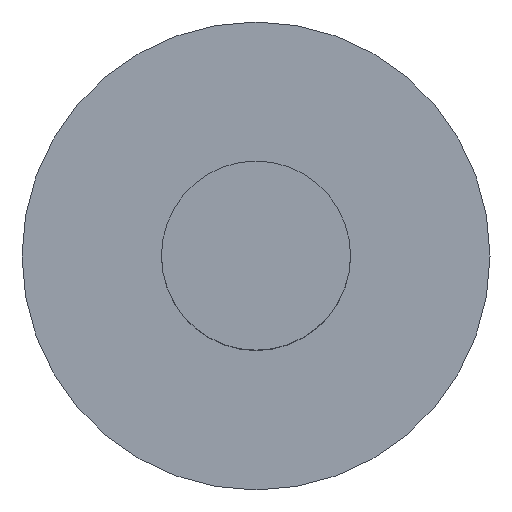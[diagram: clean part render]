
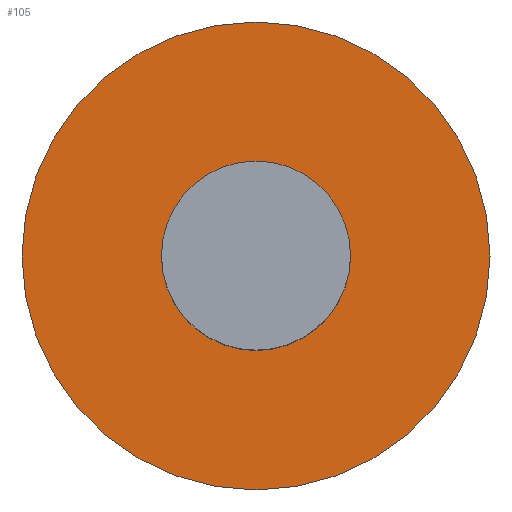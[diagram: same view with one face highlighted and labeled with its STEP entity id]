
A CAD part, top view. The second image highlights one B-rep face of the part: STEP entity #105.
In plain terms, the highlighted planar face has unit normal (0, 0, 1).
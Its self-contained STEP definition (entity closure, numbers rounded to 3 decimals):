
#21 = EDGE_CURVE('',#22,#22,#24,.T.);
#22 = VERTEX_POINT('',#23);
#23 = CARTESIAN_POINT('',(19.8,0.,110.));
#24 = SURFACE_CURVE('',#25,(#30,#42),.PCURVE_S1.);
#25 = CIRCLE('',#26,19.8);
#26 = AXIS2_PLACEMENT_3D('',#27,#28,#29);
#27 = CARTESIAN_POINT('',(0.,0.,110.));
#28 = DIRECTION('',(0.,0.,1.));
#29 = DIRECTION('',(1.,0.,-0.));
#30 = PCURVE('',#31,#36);
#31 = CONICAL_SURFACE('',#32,11.8,0.073);
#32 = AXIS2_PLACEMENT_3D('',#33,#34,#35);
#33 = CARTESIAN_POINT('',(0.,0.,0.));
#34 = DIRECTION('',(0.,0.,1.));
#35 = DIRECTION('',(1.,0.,-0.));
#36 = DEFINITIONAL_REPRESENTATION('',(#37),#41);
#37 = LINE('',#38,#39);
#38 = CARTESIAN_POINT('',(0.,110.));
#39 = VECTOR('',#40,1.);
#40 = DIRECTION('',(1.,0.));
#41 = ( GEOMETRIC_REPRESENTATION_CONTEXT(2) 
PARAMETRIC_REPRESENTATION_CONTEXT() REPRESENTATION_CONTEXT('2D SPACE',''
  ) );
#42 = PCURVE('',#43,#48);
#43 = PLANE('',#44);
#44 = AXIS2_PLACEMENT_3D('',#45,#46,#47);
#45 = CARTESIAN_POINT('',(0.,0.,110.));
#46 = DIRECTION('',(0.,0.,1.));
#47 = DIRECTION('',(1.,0.,-0.));
#48 = DEFINITIONAL_REPRESENTATION('',(#49),#53);
#49 = CIRCLE('',#50,19.8);
#50 = AXIS2_PLACEMENT_2D('',#51,#52);
#51 = CARTESIAN_POINT('',(0.,0.));
#52 = DIRECTION('',(1.,0.));
#53 = ( GEOMETRIC_REPRESENTATION_CONTEXT(2) 
PARAMETRIC_REPRESENTATION_CONTEXT() REPRESENTATION_CONTEXT('2D SPACE',''
  ) );
#105 = ADVANCED_FACE('',(#106,#109),#43,.T.);
#106 = FACE_BOUND('',#107,.T.);
#107 = EDGE_LOOP('',(#108));
#108 = ORIENTED_EDGE('',*,*,#21,.T.);
#109 = FACE_BOUND('',#110,.T.);
#110 = EDGE_LOOP('',(#111));
#111 = ORIENTED_EDGE('',*,*,#112,.F.);
#112 = EDGE_CURVE('',#113,#113,#115,.T.);
#113 = VERTEX_POINT('',#114);
#114 = CARTESIAN_POINT('',(8.,0.,110.));
#115 = SURFACE_CURVE('',#116,(#121,#128),.PCURVE_S1.);
#116 = CIRCLE('',#117,8.);
#117 = AXIS2_PLACEMENT_3D('',#118,#119,#120);
#118 = CARTESIAN_POINT('',(0.,0.,110.));
#119 = DIRECTION('',(0.,0.,1.));
#120 = DIRECTION('',(1.,0.,0.));
#121 = PCURVE('',#43,#122);
#122 = DEFINITIONAL_REPRESENTATION('',(#123),#127);
#123 = CIRCLE('',#124,8.);
#124 = AXIS2_PLACEMENT_2D('',#125,#126);
#125 = CARTESIAN_POINT('',(0.,0.));
#126 = DIRECTION('',(1.,0.));
#127 = ( GEOMETRIC_REPRESENTATION_CONTEXT(2) 
PARAMETRIC_REPRESENTATION_CONTEXT() REPRESENTATION_CONTEXT('2D SPACE',''
  ) );
#128 = PCURVE('',#129,#134);
#129 = CYLINDRICAL_SURFACE('',#130,8.);
#130 = AXIS2_PLACEMENT_3D('',#131,#132,#133);
#131 = CARTESIAN_POINT('',(0.,0.,110.));
#132 = DIRECTION('',(-0.,-0.,-1.));
#133 = DIRECTION('',(1.,0.,0.));
#134 = DEFINITIONAL_REPRESENTATION('',(#135),#139);
#135 = LINE('',#136,#137);
#136 = CARTESIAN_POINT('',(-0.,0.));
#137 = VECTOR('',#138,1.);
#138 = DIRECTION('',(-1.,0.));
#139 = ( GEOMETRIC_REPRESENTATION_CONTEXT(2) 
PARAMETRIC_REPRESENTATION_CONTEXT() REPRESENTATION_CONTEXT('2D SPACE',''
  ) );
